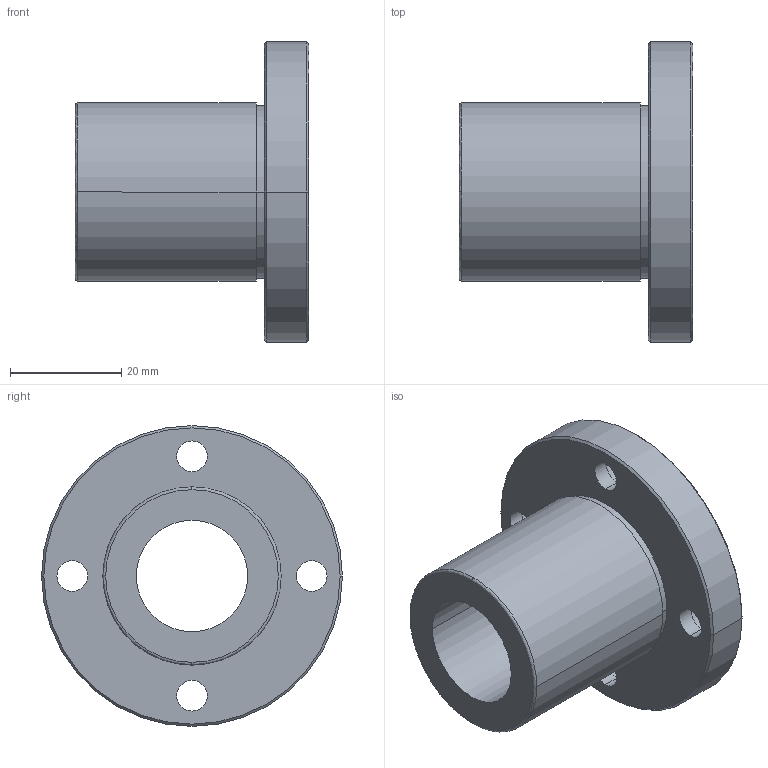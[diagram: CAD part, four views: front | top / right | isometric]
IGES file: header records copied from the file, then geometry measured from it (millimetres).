
Start section: 3D InterOp IGES (Version 21 0 1), Spatial Corp. Copyright (c) 1999-2007.
Global section: file name: NFED-20VUU.igs; native system: Spatial Corp.; preprocessor: 3D InterOp GENERIC/IGES 3.0; author: Noname; organization: Noname; date: 20220308.100925; units: millimetre
Bounding box: 42 x 54 x 54 mm (x, y, z)
Surface area: 11946.1 mm2 (no closed solid volume)
Topology: 0 solids, 0 shells, 38 faces, 174 edges, 174 vertices
Faces by surface type: revolution 30, extrusion 8
